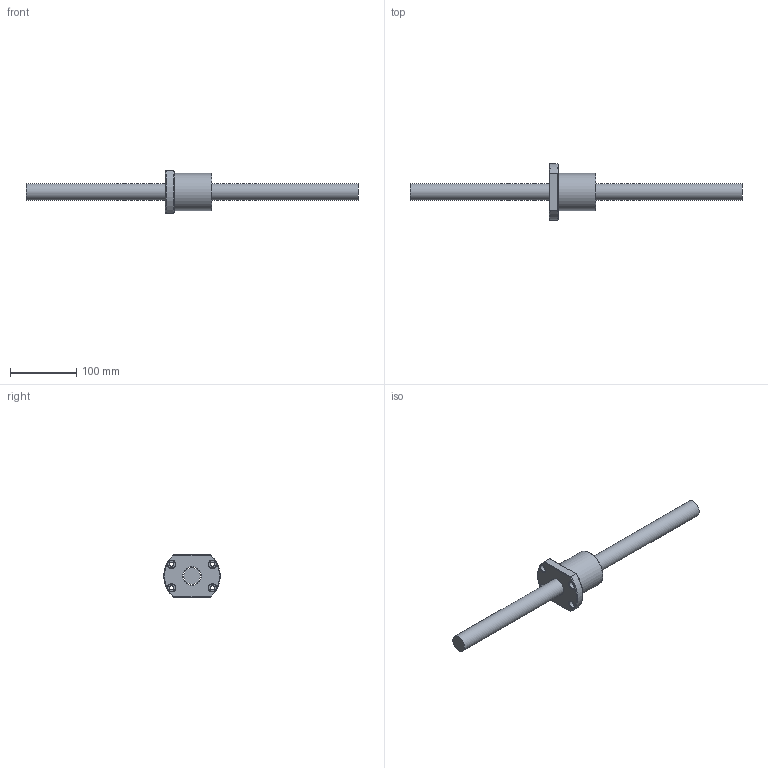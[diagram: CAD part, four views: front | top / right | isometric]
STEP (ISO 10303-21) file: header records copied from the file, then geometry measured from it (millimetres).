
FILE_DESCRIPTION (( 'STEP AP203' ), '1' );
FILE_NAME ('SFV02508D-4.8.step', '2024-05-20T03:38:20', ( '' ), ( '' ), 'SwSTEP 2.0', 'SolidWorks 2022', '' );
FILE_SCHEMA (( 'CONFIG_CONTROL_DESIGN' ));
Length unit declared in the file: millimetre
Products named in the file (1): SFV02508D-4.8
Bounding box: 500 x 85 x 64 mm (x, y, z)
Volume: 403174.7 mm3; surface area: 69412.5 mm2
Topology: 2 solids, 2 shells, 56 faces, 146 edges, 95 vertices
Faces by surface type: cylinder 21, plane 16, cone 9, torus 5, bspline 5
Full cylindrical faces by diameter (mm): 4 x1, 5 x6, 6.5 x4, 11 x4, 25 x1, 27.6 x1, 56 x1
Entity records: 3240 total; most frequent: CARTESIAN_POINT 2154, DIRECTION 198, ORIENTED_EDGE 182, EDGE_CURVE 91, AXIS2_PLACEMENT_3D 91, EDGE_LOOP 86, VERTEX_POINT 71, FACE_OUTER_BOUND 64
